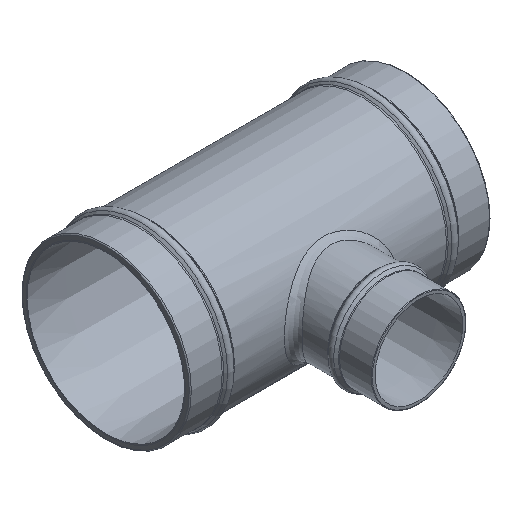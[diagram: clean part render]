
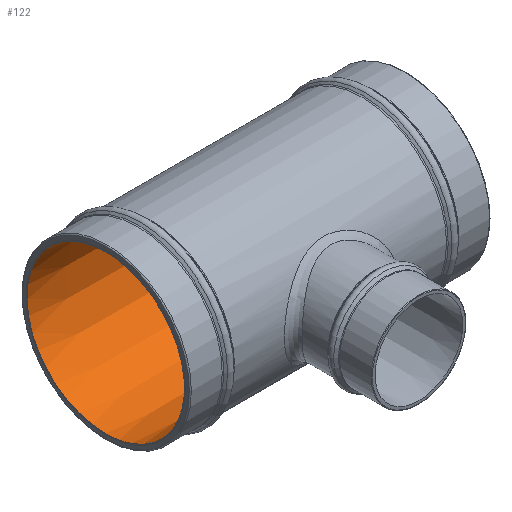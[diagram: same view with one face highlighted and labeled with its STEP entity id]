
A CAD part, isometric view. The second image highlights one B-rep face of the part: STEP entity #122.
In plain terms, the highlighted conical face has half-angle 0.7 degrees and reference radius 71.246 mm.
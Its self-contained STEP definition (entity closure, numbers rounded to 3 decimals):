
#122=ADVANCED_FACE('',(#173,#174),#154,.F.);
#154=CONICAL_SURFACE('',#469,71.246,0.7);
#167=B_SPLINE_CURVE_WITH_KNOTS('',3,(#652,#653,#654,#655,#656,#657,#658,
#659,#660,#661,#662,#663,#664,#665,#666,#667,#668,#669,#670,#671,#672,#673,
#674,#675),.UNSPECIFIED.,.F.,.F.,(4,2,2,2,2,2,2,2,2,2,2,4),(0.,0.063,
0.125,0.25,0.375,0.438,0.5,
0.625,0.75,0.875,0.938,1.),.UNSPECIFIED.);
#173=FACE_BOUND('',#238,.T.);
#174=FACE_BOUND('',#239,.T.);
#238=EDGE_LOOP('',(#303));
#239=EDGE_LOOP('',(#304,#305));
#303=ORIENTED_EDGE('',*,*,#404,.F.);
#304=ORIENTED_EDGE('',*,*,#405,.T.);
#305=ORIENTED_EDGE('',*,*,#406,.T.);
#371=VERTEX_POINT('',#648);
#372=VERTEX_POINT('',#650);
#373=VERTEX_POINT('',#651);
#404=EDGE_CURVE('',#371,#371,#438,.T.);
#405=EDGE_CURVE('',#372,#373,#439,.T.);
#406=EDGE_CURVE('',#373,#372,#167,.T.);
#438=CIRCLE('',#467,71.246);
#439=CIRCLE('',#468,69.584);
#467=AXIS2_PLACEMENT_3D('',#647,#528,#529);
#468=AXIS2_PLACEMENT_3D('',#649,#530,#531);
#469=AXIS2_PLACEMENT_3D('',#676,#532,#533);
#528=DIRECTION('',(1.,0.,0.));
#529=DIRECTION('',(0.,0.,-1.));
#530=DIRECTION('',(1.,0.,0.));
#531=DIRECTION('',(0.,0.,-1.));
#532=DIRECTION('',(-1.,0.,0.));
#533=DIRECTION('',(0.,0.,1.));
#647=CARTESIAN_POINT('',(334.1,398.263,0.));
#648=CARTESIAN_POINT('',(334.1,398.263,-71.246));
#649=CARTESIAN_POINT('',(470.124,398.263,0.));
#650=CARTESIAN_POINT('',(470.124,340.37,-38.604));
#651=CARTESIAN_POINT('',(470.124,340.37,38.604));
#652=CARTESIAN_POINT('',(470.124,340.37,38.604));
#653=CARTESIAN_POINT('',(467.505,340.332,38.604));
#654=CARTESIAN_POINT('',(464.946,340.118,38.343));
#655=CARTESIAN_POINT('',(459.937,339.393,37.335));
#656=CARTESIAN_POINT('',(457.464,338.874,36.575));
#657=CARTESIAN_POINT('',(450.496,337.05,33.667));
#658=CARTESIAN_POINT('',(446.3,335.452,30.848));
#659=CARTESIAN_POINT('',(439.291,332.404,23.904));
#660=CARTESIAN_POINT('',(436.414,330.93,19.703));
#661=CARTESIAN_POINT('',(433.455,329.359,12.742));
#662=CARTESIAN_POINT('',(432.675,328.931,10.255));
#663=CARTESIAN_POINT('',(431.641,328.358,5.22));
#664=CARTESIAN_POINT('',(431.377,328.209,2.666));
#665=CARTESIAN_POINT('',(431.362,328.201,-5.115));
#666=CARTESIAN_POINT('',(432.429,328.814,-10.302));
#667=CARTESIAN_POINT('',(436.395,330.92,-19.684));
#668=CARTESIAN_POINT('',(439.273,332.396,-23.883));
#669=CARTESIAN_POINT('',(446.287,335.447,-30.839));
#670=CARTESIAN_POINT('',(450.491,337.046,-33.66));
#671=CARTESIAN_POINT('',(457.418,338.864,-36.558));
#672=CARTESIAN_POINT('',(459.879,339.383,-37.321));
#673=CARTESIAN_POINT('',(464.93,340.117,-38.342));
#674=CARTESIAN_POINT('',(467.502,340.332,-38.604));
#675=CARTESIAN_POINT('',(470.124,340.37,-38.604));
#676=CARTESIAN_POINT('',(334.1,398.263,0.));
